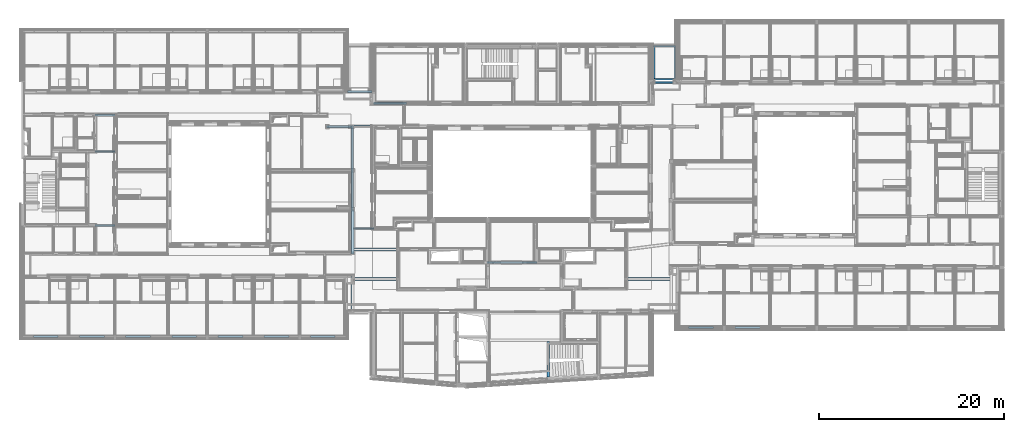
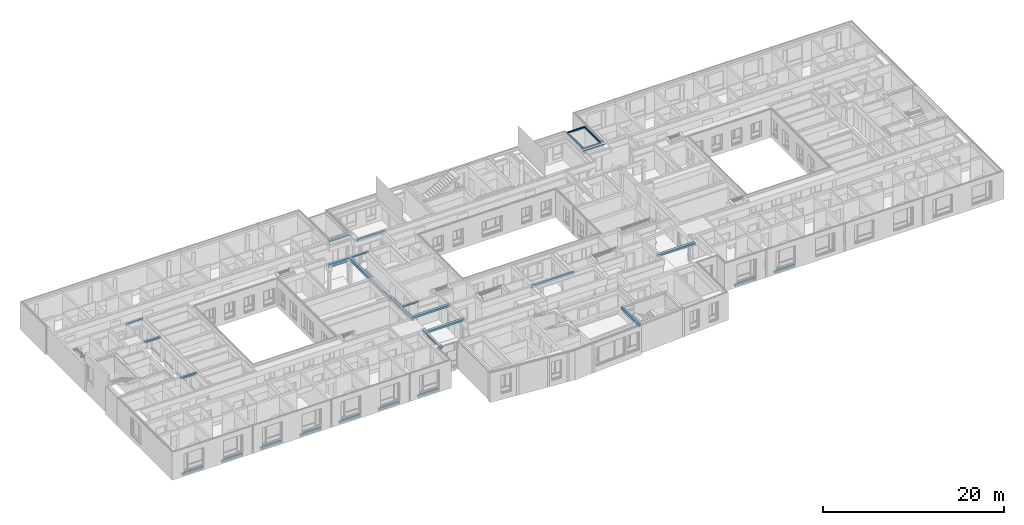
# One storey, part 6 of 222: 30 beams.
"""IFC4 building model written with IfcOpenShell, lengths in metres."""

from ifc_helpers import new_model, entity, si_unit, converted_unit, derived_unit, frame, frame_2d, origin, place, context, subcontext, project, spatial, polyline, rectangle, outline, extrude, faceted_brep, material, element, save


model = new_model("IFC4")

# Units and contexts
model_context = context("Model", 3, precision=1e-05, world=origin())
body_context = subcontext(model_context, "Body", "Model", "MODEL_VIEW")
ifc_project = project(units=[si_unit("LENGTHUNIT", "METRE"), si_unit("AREAUNIT", "SQUARE_METRE"), si_unit("VOLUMEUNIT", "CUBIC_METRE"), si_unit("MASSUNIT", "GRAM", prefix="KILO"), converted_unit("PLANEANGLEUNIT", "DEGREE", entity("IfcPlaneAngleMeasure", 0.0174532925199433), si_unit("PLANEANGLEUNIT", "RADIAN"), dimensions=[0, 0, 0, 0, 0, 0, 0]), derived_unit("THERMALTRANSMITTANCEUNIT", [(si_unit("POWERUNIT", "WATT"), 1), (si_unit("THERMODYNAMICTEMPERATUREUNIT", "KELVIN"), -1), (si_unit("LENGTHUNIT", "METRE"), -2)]), derived_unit("VOLUMETRICFLOWRATEUNIT", [(si_unit("LENGTHUNIT", "METRE"), 3), (converted_unit("TIMEUNIT", "hour", entity("IfcTimeMeasure", 3600.0), si_unit("TIMEUNIT", "SECOND"), dimensions=[0, 0, 1, 0, 0, 0, 0]), -1), (si_unit("LENGTHUNIT", "METRE"), -1)])], contexts=[model_context])

# Site, building, storey
site_placement = place(None, origin())
site = spatial("IfcSite", under=ifc_project, at=site_placement, Name="Psychiatrie Neubau Wunstorf", CompositionType="ELEMENT")
building_placement = place(site_placement, origin())
building = spatial("IfcBuilding", under=site, at=building_placement, Name="Neubau H2 Stationsgebäude", CompositionType="ELEMENT")
storey_placement = place(building_placement, frame((0.0, 0.0, 3.6)))
storey = spatial("IfcBuildingStorey", under=building, at=storey_placement, Name="H2 Ebene +1", CompositionType="ELEMENT", Elevation=3.6)

# Beams
ifc_material_1 = material(Name="BS Bekleidung")
beam_1_placement = place(storey_placement, frame((35.1750000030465, 24.114, 3.114)))
element("IfcBeam", 1, at=beam_1_placement, inside=storey, material=ifc_material_1, PredefinedType="NOTDEFINED", context=body_context, shape_type="Brep", body=[
    faceted_brep([(0.0, 0.282, 0.0), (0.0, 0.0, 0.0), (2.65, 0.0, 0.0), (2.65, 0.282, 0.0), (0.0, 0.246, 0.436), (0.0, 0.282, 0.436), (2.65, 0.282, 0.436), (2.65, 0.246, 0.436), (0.0, 0.246, 0.036), (0.0, 0.036, 0.036), (0.0, 0.036, 0.436), (0.0, 0.0, 0.436), (2.65, 0.0, 0.436), (2.65, 0.036, 0.436), (2.65, 0.036, 0.036), (2.65, 0.246, 0.036)], [[[0, 1, 2, 3]], [[4, 5, 6, 7]], [[8, 9, 10, 11, 1, 0, 5, 4]], [[2, 1, 11, 12]], [[7, 6, 3, 2, 12, 13, 14, 15]], [[0, 3, 6, 5]], [[13, 12, 11, 10]], [[14, 9, 8, 15]], [[13, 10, 9, 14]], [[15, 8, 4, 7]]], orient=[[False], [False], [False], [False], [False], [False], [False], [False], [False], [False]]),
])
ifc_material_2 = material(Name="BS Bekleidung")
beam_2_placement = place(storey_placement, frame((77.1500000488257, -1.39600345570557, 0.0)))
element("IfcBeam", 2, at=beam_2_placement, inside=storey, material=ifc_material_2, PredefinedType="NOTDEFINED", context=body_context, shape_type="Brep", body=[
    faceted_brep([(0.0, 0.232007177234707, 0.296), (2.7, 0.232, 0.296), (2.7, 0.0, 0.296), (0.0, 3.588617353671e-06, 0.296), (0.0, 0.196007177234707, 0.0), (2.7, 0.196, 0.0), (2.7, 0.232, 0.0), (0.0, 0.232007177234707, 0.0), (0.0, 0.196007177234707, 0.26), (0.0, 3.588617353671e-06, 0.0), (0.0, 0.0360035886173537, 0.0), (0.0, 0.0360035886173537, 0.26), (2.7, 0.0, 0.0), (2.7, 0.196, 0.26), (2.7, 0.036, 0.26), (2.7, 0.036, 0.0)], [[[0, 1, 2, 3]], [[4, 5, 6, 7]], [[8, 4, 7, 0, 3, 9, 10, 11]], [[2, 12, 9, 3]], [[5, 13, 14, 15, 12, 2, 1, 6]], [[0, 7, 6, 1]], [[15, 10, 9, 12]], [[14, 13, 8, 11]], [[15, 14, 11, 10]], [[13, 5, 4, 8]]], orient=[[False], [False], [False], [False], [False], [False], [False], [False], [False], [False]]),
])
ifc_material_3 = material(Name="BS Bekleidung")
beam_3_placement = place(storey_placement, frame((72.1500000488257, -1.39600345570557, 0.0)))
element("IfcBeam", 3, at=beam_3_placement, inside=storey, material=ifc_material_3, PredefinedType="NOTDEFINED", context=body_context, shape_type="Brep", body=[
    faceted_brep([(0.0, 0.232007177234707, 0.296), (2.7, 0.232, 0.296), (2.7, 0.0, 0.296), (0.0, 3.588617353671e-06, 0.296), (0.0, 0.196007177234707, 0.0), (2.7, 0.196, 0.0), (2.7, 0.232, 0.0), (0.0, 0.232007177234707, 0.0), (0.0, 0.196007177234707, 0.26), (0.0, 3.588617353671e-06, 0.0), (0.0, 0.0360035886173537, 0.0), (0.0, 0.0360035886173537, 0.26), (2.7, 0.0, 0.0), (2.7, 0.196, 0.26), (2.7, 0.036, 0.26), (2.7, 0.036, 0.0)], [[[0, 1, 2, 3]], [[4, 5, 6, 7]], [[8, 4, 7, 0, 3, 9, 10, 11]], [[2, 12, 9, 3]], [[5, 13, 14, 15, 12, 2, 1, 6]], [[0, 7, 6, 1]], [[15, 10, 9, 12]], [[14, 13, 8, 11]], [[15, 14, 11, 10]], [[13, 5, 4, 8]]], orient=[[False], [False], [False], [False], [False], [False], [False], [False], [False], [False]]),
])
ifc_material_4 = material(Name="BS Bekleidung")
beam_4_placement = place(storey_placement, frame((1.15000000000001, -2.39600345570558, 0.0)))
element("IfcBeam", 4, at=beam_4_placement, inside=storey, material=ifc_material_4, PredefinedType="NOTDEFINED", context=body_context, shape_type="Brep", body=[
    faceted_brep([(0.0, 0.232007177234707, 0.296), (2.69999999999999, 0.232, 0.296), (2.69999999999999, 0.0, 0.296), (0.0, 3.588617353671e-06, 0.296), (0.0, 0.196007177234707, 0.0), (2.69999999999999, 0.196, 0.0), (2.69999999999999, 0.232, 0.0), (0.0, 0.232007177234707, 0.0), (0.0, 0.196007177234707, 0.26), (0.0, 3.588617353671e-06, 0.0), (0.0, 0.0360035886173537, 0.0), (0.0, 0.0360035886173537, 0.26), (2.69999999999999, 0.0, 0.0), (2.69999999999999, 0.196, 0.26), (2.69999999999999, 0.036, 0.26), (2.69999999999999, 0.036, 0.0)], [[[0, 1, 2, 3]], [[4, 5, 6, 7]], [[8, 4, 7, 0, 3, 9, 10, 11]], [[2, 12, 9, 3]], [[5, 13, 14, 15, 12, 2, 1, 6]], [[0, 7, 6, 1]], [[15, 10, 9, 12]], [[14, 13, 8, 11]], [[15, 14, 11, 10]], [[13, 5, 4, 8]]], orient=[[False], [False], [False], [False], [False], [False], [False], [False], [False], [False]]),
])
ifc_material_5 = material(Name="BS Bekleidung")
beam_5_placement = place(storey_placement, frame((6.15000000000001, -2.39600345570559, 0.0)))
element("IfcBeam", 5, at=beam_5_placement, inside=storey, material=ifc_material_5, PredefinedType="NOTDEFINED", context=body_context, shape_type="Brep", body=[
    faceted_brep([(0.0, 0.232007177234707, 0.296), (2.69999999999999, 0.232, 0.296), (2.69999999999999, 0.0, 0.296), (0.0, 3.588617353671e-06, 0.296), (0.0, 0.196007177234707, 0.0), (2.69999999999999, 0.196, 0.0), (2.69999999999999, 0.232, 0.0), (0.0, 0.232007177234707, 0.0), (0.0, 0.196007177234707, 0.26), (0.0, 3.588617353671e-06, 0.0), (0.0, 0.0360035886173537, 0.0), (0.0, 0.0360035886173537, 0.26), (2.69999999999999, 0.0, 0.0), (2.69999999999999, 0.196, 0.26), (2.69999999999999, 0.036, 0.26), (2.69999999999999, 0.036, 0.0)], [[[0, 1, 2, 3]], [[4, 5, 6, 7]], [[8, 4, 7, 0, 3, 9, 10, 11]], [[2, 12, 9, 3]], [[5, 13, 14, 15, 12, 2, 1, 6]], [[0, 7, 6, 1]], [[15, 10, 9, 12]], [[14, 13, 8, 11]], [[15, 14, 11, 10]], [[13, 5, 4, 8]]], orient=[[False], [False], [False], [False], [False], [False], [False], [False], [False], [False]]),
])
ifc_material_6 = material(Name="BS Bekleidung")
beam_6_placement = place(storey_placement, frame((11.15, -2.39600345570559, 0.0)))
element("IfcBeam", 6, at=beam_6_placement, inside=storey, material=ifc_material_6, PredefinedType="NOTDEFINED", context=body_context, shape_type="Brep", body=[
    faceted_brep([(0.0, 0.232007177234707, 0.296), (2.69999999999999, 0.232, 0.296), (2.69999999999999, 0.0, 0.296), (0.0, 3.588617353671e-06, 0.296), (0.0, 0.196007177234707, 0.0), (2.69999999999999, 0.196, 0.0), (2.69999999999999, 0.232, 0.0), (0.0, 0.232007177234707, 0.0), (0.0, 0.196007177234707, 0.26), (0.0, 3.588617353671e-06, 0.0), (0.0, 0.0360035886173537, 0.0), (0.0, 0.0360035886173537, 0.26), (2.69999999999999, 0.0, 0.0), (2.69999999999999, 0.196, 0.26), (2.69999999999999, 0.036, 0.26), (2.69999999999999, 0.036, 0.0)], [[[0, 1, 2, 3]], [[4, 5, 6, 7]], [[8, 4, 7, 0, 3, 9, 10, 11]], [[2, 12, 9, 3]], [[5, 13, 14, 15, 12, 2, 1, 6]], [[0, 7, 6, 1]], [[15, 10, 9, 12]], [[14, 13, 8, 11]], [[15, 14, 11, 10]], [[13, 5, 4, 8]]], orient=[[False], [False], [False], [False], [False], [False], [False], [False], [False], [False]]),
])
ifc_material_7 = material(Name="BS Bekleidung")
beam_7_placement = place(storey_placement, frame((16.15, -2.39599999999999, 0.0)))
element("IfcBeam", 7, at=beam_7_placement, inside=storey, material=ifc_material_7, PredefinedType="NOTDEFINED", context=body_context, shape_type="Brep", body=[
    faceted_brep([(0.0, 0.232007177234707, 0.296), (2.69999999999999, 0.232, 0.296), (2.69999999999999, 0.0, 0.296), (0.0, 3.588617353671e-06, 0.296), (0.0, 0.196007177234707, 0.0), (2.69999999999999, 0.196, 0.0), (2.69999999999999, 0.232, 0.0), (0.0, 0.232007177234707, 0.0), (0.0, 0.196007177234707, 0.26), (0.0, 3.588617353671e-06, 0.0), (0.0, 0.0360035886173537, 0.0), (0.0, 0.0360035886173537, 0.26), (2.69999999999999, 0.0, 0.0), (2.69999999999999, 0.196, 0.26), (2.69999999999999, 0.036, 0.26), (2.69999999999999, 0.036, 0.0)], [[[0, 1, 2, 3]], [[4, 5, 6, 7]], [[8, 4, 7, 0, 3, 9, 10, 11]], [[2, 12, 9, 3]], [[5, 13, 14, 15, 12, 2, 1, 6]], [[0, 7, 6, 1]], [[15, 10, 9, 12]], [[14, 13, 8, 11]], [[15, 14, 11, 10]], [[13, 5, 4, 8]]], orient=[[False], [False], [False], [False], [False], [False], [False], [False], [False], [False]]),
])
ifc_material_8 = material(Name="BS Bekleidung")
beam_8_placement = place(storey_placement, frame((21.15, -2.39599999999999, 0.0)))
element("IfcBeam", 8, at=beam_8_placement, inside=storey, material=ifc_material_8, PredefinedType="NOTDEFINED", context=body_context, shape_type="Brep", body=[
    faceted_brep([(0.0, 0.232007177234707, 0.296), (2.69999999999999, 0.232, 0.296), (2.69999999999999, 0.0, 0.296), (0.0, 3.588617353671e-06, 0.296), (0.0, 0.196007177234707, 0.0), (2.69999999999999, 0.196, 0.0), (2.69999999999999, 0.232, 0.0), (0.0, 0.232007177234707, 0.0), (0.0, 0.196007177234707, 0.26), (0.0, 3.588617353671e-06, 0.0), (0.0, 0.0360035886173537, 0.0), (0.0, 0.0360035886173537, 0.26), (2.69999999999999, 0.0, 0.0), (2.69999999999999, 0.196, 0.26), (2.69999999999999, 0.036, 0.26), (2.69999999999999, 0.036, 0.0)], [[[0, 1, 2, 3]], [[4, 5, 6, 7]], [[8, 4, 7, 0, 3, 9, 10, 11]], [[2, 12, 9, 3]], [[5, 13, 14, 15, 12, 2, 1, 6]], [[0, 7, 6, 1]], [[15, 10, 9, 12]], [[14, 13, 8, 11]], [[15, 14, 11, 10]], [[13, 5, 4, 8]]], orient=[[False], [False], [False], [False], [False], [False], [False], [False], [False], [False]]),
])
ifc_material_9 = material(Name="BS Bekleidung")
beam_9_placement = place(storey_placement, frame((26.15, -2.39599999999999, 0.0)))
element("IfcBeam", 9, at=beam_9_placement, inside=storey, material=ifc_material_9, PredefinedType="NOTDEFINED", context=body_context, shape_type="Brep", body=[
    faceted_brep([(0.0, 0.232007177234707, 0.296), (2.69999999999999, 0.232, 0.296), (2.69999999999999, 0.0, 0.296), (0.0, 3.588617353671e-06, 0.296), (0.0, 0.196007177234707, 0.0), (2.69999999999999, 0.196, 0.0), (2.69999999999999, 0.232, 0.0), (0.0, 0.232007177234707, 0.0), (0.0, 0.196007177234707, 0.26), (0.0, 3.588617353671e-06, 0.0), (0.0, 0.0360035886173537, 0.0), (0.0, 0.0360035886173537, 0.26), (2.69999999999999, 0.0, 0.0), (2.69999999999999, 0.196, 0.26), (2.69999999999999, 0.036, 0.26), (2.69999999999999, 0.036, 0.0)], [[[0, 1, 2, 3]], [[4, 5, 6, 7]], [[8, 4, 7, 0, 3, 9, 10, 11]], [[2, 12, 9, 3]], [[5, 13, 14, 15, 12, 2, 1, 6]], [[0, 7, 6, 1]], [[15, 10, 9, 12]], [[14, 13, 8, 11]], [[15, 14, 11, 10]], [[13, 5, 4, 8]]], orient=[[False], [False], [False], [False], [False], [False], [False], [False], [False], [False]]),
])
ifc_material_10 = material(Name="BS Bekleidung")
beam_10_placement = place(storey_placement, frame((31.15, -2.39599999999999, 0.0)))
element("IfcBeam", 10, at=beam_10_placement, inside=storey, material=ifc_material_10, PredefinedType="NOTDEFINED", context=body_context, shape_type="Brep", body=[
    faceted_brep([(0.0, 0.232007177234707, 0.296), (2.69999999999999, 0.232, 0.296), (2.69999999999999, 0.0, 0.296), (0.0, 3.588617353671e-06, 0.296), (0.0, 0.196007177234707, 0.0), (2.69999999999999, 0.196, 0.0), (2.69999999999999, 0.232, 0.0), (0.0, 0.232007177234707, 0.0), (0.0, 0.196007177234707, 0.26), (0.0, 3.588617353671e-06, 0.0), (0.0, 0.0360035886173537, 0.0), (0.0, 0.0360035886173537, 0.26), (2.69999999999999, 0.0, 0.0), (2.69999999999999, 0.196, 0.26), (2.69999999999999, 0.036, 0.26), (2.69999999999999, 0.036, 0.0)], [[[0, 1, 2, 3]], [[4, 5, 6, 7]], [[8, 4, 7, 0, 3, 9, 10, 11]], [[2, 12, 9, 3]], [[5, 13, 14, 15, 12, 2, 1, 6]], [[0, 7, 6, 1]], [[15, 10, 9, 12]], [[14, 13, 8, 11]], [[15, 14, 11, 10]], [[13, 5, 4, 8]]], orient=[[False], [False], [False], [False], [False], [False], [False], [False], [False], [False]]),
])
ifc_material_11 = material(Name="H")
beam_11_placement = place(storey_placement, frame((68.1750000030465, 25.15, 3.15)))
element("IfcBeam", 11, at=beam_11_placement, inside=storey, material=ifc_material_11, PredefinedType="NOTDEFINED", context=body_context, shape_type="SweptSolid", body=[
    extrude(rectangle(XDim=0.16, YDim=0.4, at=frame_2d((0.08, 0.2), x_axis=(1.0, 0.0))), frame((0.0, 0.0, 0.0), z_axis=(1.0, 0.0, 0.0), x_axis=(0.0, 1.0, 0.0)), (0.0, 0.0, 1.0), 2.65),
])
ifc_material_12 = material(Name="BS Bekleidung")
beam_12_placement = place(storey_placement, frame((7.84350410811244, 17.6540132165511, 3.314)))
element("IfcBeam", 12, at=beam_12_placement, inside=storey, material=ifc_material_12, PredefinedType="NOTDEFINED", context=body_context, shape_type="Brep", body=[
    faceted_brep([(0.0, 0.232, 0.0), (0.0, 0.0, 0.0), (2.15, 0.0, 0.0), (2.15, 0.232, 0.0), (0.0, 0.196, 0.236), (0.0, 0.232, 0.236), (2.15, 0.232, 0.236), (2.15, 0.196, 0.236), (0.0, 0.196, 0.036), (0.0, 0.036, 0.036), (0.0, 0.036, 0.236), (0.0, 0.0, 0.236), (2.15, 0.0, 0.236), (2.15, 0.036, 0.236), (2.15, 0.036, 0.036), (2.15, 0.196, 0.036)], [[[0, 1, 2, 3]], [[4, 5, 6, 7]], [[8, 9, 10, 11, 1, 0, 5, 4]], [[2, 1, 11, 12]], [[7, 6, 3, 2, 12, 13, 14, 15]], [[0, 3, 6, 5]], [[13, 12, 11, 10]], [[14, 9, 8, 15]], [[13, 10, 9, 14]], [[15, 8, 4, 7]]], orient=[[False], [False], [False], [False], [False], [False], [False], [False], [False], [False]]),
])
ifc_material_13 = material(Name="BS Bekleidung")
beam_13_placement = place(storey_placement, frame((35.589, 6.64199999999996, 3.284)))
element("IfcBeam", 13, at=beam_13_placement, inside=storey, material=ifc_material_13, PredefinedType="NOTDEFINED", context=body_context, shape_type="Brep", body=[
    faceted_brep([(0.0, 0.0, 0.0), (0.312000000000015, 0.0, 0.0), (0.312000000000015, 4.81155529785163, 0.0), (0.0, 4.81155529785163, 0.0), (0.036, 0.0, 0.266), (0.0, 0.0, 0.266), (0.0, 4.81155529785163, 0.266), (0.036, 4.81155529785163, 0.266), (0.036, 0.0, 0.036), (0.276000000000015, 0.0, 0.036), (0.276000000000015, 0.0, 0.266), (0.312000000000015, 0.0, 0.266), (0.312000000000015, 4.81155529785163, 0.266), (0.276000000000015, 4.81155529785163, 0.266), (0.276000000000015, 4.81155529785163, 0.036), (0.036, 4.81155529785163, 0.036)], [[[0, 1, 2, 3]], [[4, 5, 6, 7]], [[8, 9, 10, 11, 1, 0, 5, 4]], [[2, 1, 11, 12]], [[7, 6, 3, 2, 12, 13, 14, 15]], [[0, 3, 6, 5]], [[13, 12, 11, 10]], [[14, 9, 8, 15]], [[13, 10, 9, 14]], [[15, 8, 4, 7]]], orient=[[False], [False], [False], [False], [False], [False], [False], [False], [False], [False]]),
])
ifc_material_14 = material(Name="BS Bekleidung")
beam_14_placement = place(storey_placement, frame((35.865, 9.32399798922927, 3.381)))
element("IfcBeam", 14, at=beam_14_placement, inside=storey, material=ifc_material_14, PredefinedType="NOTDEFINED", context=body_context, shape_type="Brep", body=[
    faceted_brep([(0.0, 0.212, 0.0), (0.0, 0.0, 0.0), (2.17500305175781, 0.0, 0.0), (2.17500305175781, 0.212, 0.0), (0.0, 0.176, 0.169), (0.0, 0.212, 0.169), (2.17500305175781, 0.212, 0.169), (2.17500305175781, 0.176, 0.169), (0.0, 0.176, 0.036), (0.0, 0.036, 0.036), (0.0, 0.036, 0.169), (0.0, 0.0, 0.169), (2.17500305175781, 0.0, 0.169), (2.17500305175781, 0.036, 0.169), (2.17500305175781, 0.036, 0.036), (2.17500305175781, 0.176, 0.036)], [[[0, 1, 2, 3]], [[4, 5, 6, 7]], [[8, 9, 10, 11, 1, 0, 5, 4]], [[2, 1, 11, 12]], [[7, 6, 3, 2, 12, 13, 14, 15]], [[0, 3, 6, 5]], [[13, 12, 11, 10]], [[14, 9, 8, 15]], [[13, 10, 9, 14]], [[15, 8, 4, 7]]], orient=[[False], [False], [False], [False], [False], [False], [False], [False], [False], [False]]),
])
ifc_material_15 = material(Name="BS Bekleidung")
beam_15_placement = place(storey_placement, frame((35.865, 6.99050243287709, 3.284)))
element("IfcBeam", 15, at=beam_15_placement, inside=storey, material=ifc_material_15, PredefinedType="NOTDEFINED", context=body_context, shape_type="Brep", body=[
    faceted_brep([(0.0, 0.312000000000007, 0.0), (0.0, 0.0, 0.0), (4.86999755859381, 0.0, 0.0), (4.86999755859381, 0.312000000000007, 0.0), (0.0, 0.276000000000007, 0.266), (0.0, 0.312000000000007, 0.266), (4.86999755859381, 0.312000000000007, 0.266), (4.86999755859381, 0.276000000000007, 0.266), (0.0, 0.276000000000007, 0.036), (0.0, 0.036, 0.036), (0.0, 0.036, 0.266), (0.0, 0.0, 0.266), (4.86999755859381, 0.0, 0.266), (4.86999755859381, 0.036, 0.266), (4.86999755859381, 0.036, 0.036), (4.86999755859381, 0.276000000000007, 0.036)], [[[0, 1, 2, 3]], [[4, 5, 6, 7]], [[8, 9, 10, 11, 1, 0, 5, 4]], [[2, 1, 11, 12]], [[7, 6, 3, 2, 12, 13, 14, 15]], [[0, 3, 6, 5]], [[13, 12, 11, 10]], [[14, 9, 8, 15]], [[13, 10, 9, 14]], [[15, 8, 4, 7]]], orient=[[False], [False], [False], [False], [False], [False], [False], [False], [False], [False]]),
])
ifc_material_16 = material(Name="BS Bekleidung")
beam_16_placement = place(storey_placement, frame((7.84350410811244, 21.604, 3.314)))
element("IfcBeam", 16, at=beam_16_placement, inside=storey, material=ifc_material_16, PredefinedType="NOTDEFINED", context=body_context, shape_type="Brep", body=[
    faceted_brep([(0.0, 0.232, 0.0), (0.0, 0.0, 0.0), (2.15, 0.0, 0.0), (2.15, 0.232, 0.0), (0.0, 0.196, 0.236), (0.0, 0.232, 0.236), (2.15, 0.232, 0.236), (2.15, 0.196, 0.236), (0.0, 0.196, 0.036), (0.0, 0.036, 0.036), (0.0, 0.036, 0.236), (0.0, 0.0, 0.236), (2.15, 0.0, 0.236), (2.15, 0.036, 0.236), (2.15, 0.036, 0.036), (2.15, 0.196, 0.036)], [[[0, 1, 2, 3]], [[4, 5, 6, 7]], [[8, 9, 10, 11, 1, 0, 5, 4]], [[2, 1, 11, 12]], [[7, 6, 3, 2, 12, 13, 14, 15]], [[0, 3, 6, 5]], [[13, 12, 11, 10]], [[14, 9, 8, 15]], [[13, 10, 9, 14]], [[15, 8, 4, 7]]], orient=[[False], [False], [False], [False], [False], [False], [False], [False], [False], [False]]),
])
ifc_material_17 = material(Name="BS Bekleidung")
beam_17_placement = place(storey_placement, frame((7.84350410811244, 9.65000306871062, 3.314)))
element("IfcBeam", 17, at=beam_17_placement, inside=storey, material=ifc_material_17, PredefinedType="NOTDEFINED", context=body_context, shape_type="Brep", body=[
    faceted_brep([(0.0, 0.232, 0.0), (0.0, 0.0, 0.0), (2.15, 0.0, 0.0), (2.15, 0.232, 0.0), (0.0, 0.196, 0.236), (0.0, 0.232, 0.236), (2.15, 0.232, 0.236), (2.15, 0.196, 0.236), (0.0, 0.196, 0.036), (0.0, 0.036, 0.036), (0.0, 0.036, 0.236), (0.0, 0.0, 0.236), (2.15, 0.0, 0.236), (2.15, 0.036, 0.236), (2.15, 0.036, 0.036), (2.15, 0.196, 0.036)], [[[0, 1, 2, 3]], [[4, 5, 6, 7]], [[8, 9, 10, 11, 1, 0, 5, 4]], [[2, 1, 11, 12]], [[7, 6, 3, 2, 12, 13, 14, 15]], [[0, 3, 6, 5]], [[13, 12, 11, 10]], [[14, 9, 8, 15]], [[13, 10, 9, 14]], [[15, 8, 4, 7]]], orient=[[False], [False], [False], [False], [False], [False], [False], [False], [False], [False]]),
])
ifc_material_18 = material(Name="BS Bekleidung")
beam_18_placement = place(storey_placement, frame((50.2855000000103, 5.61749969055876, 3.195)))
element("IfcBeam", 18, at=beam_18_placement, inside=storey, material=ifc_material_18, PredefinedType="NOTDEFINED", context=body_context, shape_type="Brep", body=[
    faceted_brep([(0.0, 0.232000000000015, 0.0), (0.0, 0.0, 0.0), (5.44700000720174, 0.0, 0.0), (5.44699980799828, 0.232, 0.0), (0.0, 0.196, 0.355), (0.0, 0.232000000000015, 0.355), (5.44699960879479, 0.232, 0.355), (5.44699960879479, 0.196, 0.355), (0.0, 0.196, 0.036), (0.0, 0.036, 0.036), (0.0, 0.036, 0.355), (0.0, 0.0, 0.355), (5.44699980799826, 0.0, 0.355), (5.44699980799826, 0.036, 0.355), (5.44700000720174, 0.036, 0.036), (5.44699980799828, 0.196, 0.036)], [[[0, 1, 2, 3]], [[4, 5, 6, 7]], [[8, 9, 10, 11, 1, 0, 5, 4]], [[2, 1, 11, 12]], [[7, 6, 3, 2, 12, 13, 14, 15]], [[0, 3, 6, 5]], [[13, 12, 11, 10]], [[14, 9, 8, 15]], [[13, 10, 9, 14]], [[15, 8, 4, 7]]], orient=[[False], [False], [False], [False], [False], [False], [False], [False], [False], [False]]),
])
ifc_material_19 = material(Name="BS Bekleidung")
beam_19_placement = place(storey_placement, frame((35.8649950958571, 3.80399969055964, 3.284)))
element("IfcBeam", 19, at=beam_19_placement, inside=storey, material=ifc_material_19, PredefinedType="NOTDEFINED", context=body_context, shape_type="Brep", body=[
    faceted_brep([(0.0, 0.312000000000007, 0.0), (0.0, 0.0, 0.0), (4.87000246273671, 0.0, 0.0), (4.87000246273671, 0.312000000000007, 0.0), (0.0, 0.276000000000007, 0.266), (0.0, 0.312000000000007, 0.266), (4.87000246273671, 0.312000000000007, 0.266), (4.87000246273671, 0.276000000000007, 0.266), (0.0, 0.276000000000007, 0.036), (0.0, 0.036, 0.036), (0.0, 0.036, 0.266), (0.0, 0.0, 0.266), (4.87000246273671, 0.0, 0.266), (4.87000246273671, 0.036, 0.266), (4.87000246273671, 0.036, 0.036), (4.87000246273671, 0.276000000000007, 0.036)], [[[0, 1, 2, 3]], [[4, 5, 6, 7]], [[8, 9, 10, 11, 1, 0, 5, 4]], [[2, 1, 11, 12]], [[7, 6, 3, 2, 12, 13, 14, 15]], [[0, 3, 6, 5]], [[13, 12, 11, 10]], [[14, 9, 8, 15]], [[13, 10, 9, 14]], [[15, 8, 4, 7]]], orient=[[False], [False], [False], [False], [False], [False], [False], [False], [False], [False]]),
])
ifc_material_20 = material(Name="BS Bekleidung")
beam_20_placement = place(storey_placement, frame((65.2650024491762, 3.80399084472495, 3.284)))
element("IfcBeam", 20, at=beam_20_placement, inside=storey, material=ifc_material_20, PredefinedType="NOTDEFINED", context=body_context, shape_type="Brep", body=[
    faceted_brep([(0.0, 0.312006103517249, 0.0), (0.0, 6.10351724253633e-06, 0.0), (4.86999287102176, 0.0, 0.0), (4.86999287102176, 0.312000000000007, 0.0), (0.0, 0.27600610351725, 0.266), (0.0, 0.312006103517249, 0.266), (4.86999287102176, 0.312000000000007, 0.266), (4.86999287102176, 0.276000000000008, 0.266), (0.0, 0.27600610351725, 0.036), (0.0, 0.0360061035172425, 0.036), (0.0, 0.0360061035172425, 0.266), (0.0, 6.10351724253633e-06, 0.266), (4.86999287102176, 0.0, 0.266), (4.86999287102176, 0.0360000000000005, 0.266), (4.86999287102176, 0.0360000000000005, 0.036), (4.86999287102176, 0.276000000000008, 0.036)], [[[0, 1, 2, 3]], [[4, 5, 6, 7]], [[8, 9, 10, 11, 1, 0, 5, 4]], [[2, 1, 11, 12]], [[7, 6, 3, 2, 12, 13, 14, 15]], [[0, 3, 6, 5]], [[13, 12, 11, 10]], [[14, 9, 8, 15]], [[13, 10, 9, 14]], [[15, 8, 4, 7]]], orient=[[False], [False], [False], [False], [False], [False], [False], [False], [False], [False]]),
])
ifc_material_21 = material(Name="BS Bekleidung")
beam_21_placement = place(storey_placement, frame((38.005, 22.8829990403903, 3.214)))
element("IfcBeam", 21, at=beam_21_placement, inside=storey, material=ifc_material_21, PredefinedType="NOTDEFINED", context=body_context, shape_type="Brep", body=[
    faceted_brep([(0.0, 0.25200366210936, 0.0), (0.0, 3.66210936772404e-06, 0.0), (3.5905016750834, 0.0, 0.0), (3.5905016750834, 0.251999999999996, 0.0), (0.0, 0.21600366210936, 0.336), (0.0, 0.25200366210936, 0.336), (3.5905016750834, 0.251999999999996, 0.336), (3.5905016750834, 0.215999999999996, 0.336), (0.0, 0.21600366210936, 0.036), (0.0, 0.0360036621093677, 0.036), (0.0, 0.0360036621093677, 0.336), (0.0, 3.66210936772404e-06, 0.336), (3.5905016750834, 0.0, 0.336), (3.5905016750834, 0.0360000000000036, 0.336), (3.5905016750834, 0.0360000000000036, 0.036), (3.5905016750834, 0.215999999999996, 0.036)], [[[0, 1, 2, 3]], [[4, 5, 6, 7]], [[8, 9, 10, 11, 1, 0, 5, 4]], [[2, 1, 11, 12]], [[7, 6, 3, 2, 12, 13, 14, 15]], [[0, 3, 6, 5]], [[13, 12, 11, 10]], [[14, 9, 8, 15]], [[13, 10, 9, 14]], [[15, 8, 4, 7]]], orient=[[False], [False], [False], [False], [False], [False], [False], [False], [False], [False]]),
])
ifc_material_22 = material(Name="BS Bekleidung")
beam_22_placement = place(storey_placement, frame((35.564, 11.4535552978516, 3.114)))
element("IfcBeam", 22, at=beam_22_placement, inside=storey, material=ifc_material_22, PredefinedType="NOTDEFINED", context=body_context, shape_type="Brep", body=[
    faceted_brep([(0.0, 0.0, 0.0), (0.271999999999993, 0.0, 0.0), (0.271999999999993, 9.1214447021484, 0.0), (0.0, 9.1214447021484, 0.0), (0.036, 0.0, 0.436), (0.0, 0.0, 0.436), (0.0, 9.1214447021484, 0.436), (0.036, 9.1214447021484, 0.436), (0.036, 0.0, 0.036), (0.235999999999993, 0.0, 0.036), (0.235999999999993, 0.0, 0.436), (0.271999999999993, 0.0, 0.436), (0.271999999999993, 9.1214447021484, 0.436), (0.235999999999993, 9.1214447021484, 0.436), (0.235999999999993, 9.1214447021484, 0.036), (0.036, 9.1214447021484, 0.036)], [[[0, 1, 2, 3]], [[4, 5, 6, 7]], [[8, 9, 10, 11, 1, 0, 5, 4]], [[2, 1, 11, 12]], [[7, 6, 3, 2, 12, 13, 14, 15]], [[0, 3, 6, 5]], [[13, 12, 11, 10]], [[14, 9, 8, 15]], [[13, 10, 9, 14]], [[15, 8, 4, 7]]], orient=[[False], [False], [False], [False], [False], [False], [False], [False], [False], [False]]),
])
ifc_material_23 = material(Name="BS Bekleidung")
beam_23_placement = place(storey_placement, frame((35.811, 20.3800022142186, 3.381)))
element("IfcBeam", 23, at=beam_23_placement, inside=storey, material=ifc_material_23, PredefinedType="NOTDEFINED", context=body_context, shape_type="Brep", body=[
    faceted_brep([(0.0, 0.212, 0.0), (0.0, 0.0, 0.0), (2.214, 0.0, 0.0), (2.214, 0.212, 0.0), (0.0, 0.176, 0.169), (0.0, 0.212, 0.169), (2.214, 0.212, 0.169), (2.214, 0.176, 0.169), (0.0, 0.176, 0.036), (0.0, 0.036, 0.036), (0.0, 0.036, 0.169), (0.0, 0.0, 0.169), (2.214, 0.0, 0.169), (2.214, 0.036, 0.169), (2.214, 0.036, 0.036), (2.214, 0.176, 0.036)], [[[0, 1, 2, 3]], [[4, 5, 6, 7]], [[8, 9, 10, 11, 1, 0, 5, 4]], [[2, 1, 11, 12]], [[7, 6, 3, 2, 12, 13, 14, 15]], [[0, 3, 6, 5]], [[13, 12, 11, 10]], [[14, 9, 8, 15]], [[13, 10, 9, 14]], [[15, 8, 4, 7]]], orient=[[False], [False], [False], [False], [False], [False], [False], [False], [False], [False]]),
])
ifc_material_24 = material(Name="BS Bekleidung")
beam_24_placement = place(storey_placement, frame((32.8829956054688, 20.3199973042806, 3.114)))
element("IfcBeam", 24, at=beam_24_placement, inside=storey, material=ifc_material_24, PredefinedType="NOTDEFINED", context=body_context, shape_type="Brep", body=[
    faceted_brep([(0.0, 0.272, 0.0), (0.0, 0.0, 0.0), (2.68100439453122, 0.0, 0.0), (2.68100439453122, 0.272, 0.0), (0.0, 0.236, 0.436), (0.0, 0.272, 0.436), (2.68100439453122, 0.272, 0.436), (2.68100439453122, 0.236, 0.436), (0.0, 0.236, 0.036), (0.0, 0.036, 0.036), (0.0, 0.036, 0.436), (0.0, 0.0, 0.436), (2.68100439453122, 0.0, 0.436), (2.68100439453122, 0.036, 0.436), (2.68100439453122, 0.036, 0.036), (2.68100439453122, 0.236, 0.036)], [[[0, 1, 2, 3]], [[4, 5, 6, 7]], [[8, 9, 10, 11, 1, 0, 5, 4]], [[2, 1, 11, 12]], [[7, 6, 3, 2, 12, 13, 14, 15]], [[0, 3, 6, 5]], [[13, 12, 11, 10]], [[14, 9, 8, 15]], [[13, 10, 9, 14]], [[15, 8, 4, 7]]], orient=[[False], [False], [False], [False], [False], [False], [False], [False], [False], [False]]),
])
ifc_material_25 = material(Name="BS Bekleidung")
beam_25_placement = place(storey_placement, frame((35.5889950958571, 0.3399963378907, 3.284)))
element("IfcBeam", 25, at=beam_25_placement, inside=storey, material=ifc_material_25, PredefinedType="NOTDEFINED", context=body_context, shape_type="Brep", body=[
    faceted_brep([(0.0, 0.0, 0.0), (0.312000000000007, 0.0, 0.0), (0.312000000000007, 3.95500366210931, 0.0), (0.0, 3.95500366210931, 0.0), (0.036, 0.0, 0.266), (0.0, 0.0, 0.266), (0.0, 3.95500366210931, 0.266), (0.036, 3.95500366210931, 0.266), (0.036, 0.0, 0.036), (0.276000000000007, 0.0, 0.036), (0.276000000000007, 0.0, 0.266), (0.312000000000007, 0.0, 0.266), (0.312000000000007, 3.95500366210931, 0.266), (0.276000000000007, 3.95500366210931, 0.266), (0.276000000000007, 3.95500366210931, 0.036), (0.036, 3.95500366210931, 0.036)], [[[0, 1, 2, 3]], [[4, 5, 6, 7]], [[8, 9, 10, 11, 1, 0, 5, 4]], [[2, 1, 11, 12]], [[7, 6, 3, 2, 12, 13, 14, 15]], [[0, 3, 6, 5]], [[13, 12, 11, 10]], [[14, 9, 8, 15]], [[13, 10, 9, 14]], [[15, 8, 4, 7]]], orient=[[False], [False], [False], [False], [False], [False], [False], [False], [False], [False]]),
])
ifc_material_26 = material(Name="STB")
beam_26_placement = place(storey_placement, frame((56.7933838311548, -6.85012758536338, 3.2)))
element("IfcBeam", 26, at=beam_26_placement, inside=storey, material=ifc_material_26, PredefinedType="NOTDEFINED", context=body_context, shape_type="Brep", body=[
    faceted_brep([(0.0182587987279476, 0.170520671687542, 0.0), (0.029080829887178, 0.00186752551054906, 0.0), (0.029080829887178, 0.00186752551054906, 0.35), (0.0182587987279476, 0.170520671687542, 0.35), (0.0, 0.0, 0.0), (0.0, 0.0, 0.35), (0.0, 4.04013948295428, 0.0), (0.0, 4.04013948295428, 0.35), (0.25, 4.04013948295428, 0.0), (0.25, 4.04013948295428, 0.35), (0.25, 0.185402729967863, 0.0), (0.25, 0.185402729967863, 0.35)], [[[0, 1, 2, 3]], [[1, 4, 5, 2]], [[4, 6, 7, 5]], [[6, 8, 9, 7]], [[8, 10, 11, 9]], [[10, 0, 3, 11]], [[11, 3, 2, 5, 7, 9]], [[0, 10, 8, 6, 4, 1]]], orient=[[False], [False], [False], [False], [False], [False], [False], [False]]),
])
ifc_material_27 = material(Name="SB-TRAEGER")
beam_27_placement = place(storey_placement, frame((68.3173957, 29.1036607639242, 3.47), z_axis=(0.0, 0.0, 1.0), x_axis=(0.0, -1.0, 0.0)))
element("IfcBeam", 27, at=beam_27_placement, inside=storey, material=ifc_material_27, Name="HEA160", PredefinedType="NOTDEFINED", context=body_context, shape_type="SweptSolid", body=[
    extrude(outline(polyline([(0.152, 0.0), (0.152, 0.16), (0.143, 0.16), (0.143, 0.083), (0.00899999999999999, 0.083), (0.00899999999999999, 0.16), (0.0, 0.16), (0.0, 0.0), (0.00899999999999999, 0.0), (0.00899999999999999, 0.077), (0.143, 0.077), (0.143, 0.0), (0.152, 0.0)])), frame((0.0, 0.16, 0.0), z_axis=(1.0, 0.0, 0.0), x_axis=(0.0, 0.0, 1.0)), (0.0, 0.0, 1.0), 3.40046040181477),
])
ifc_material_28 = material(Name="SB-TRAEGER")
beam_28_placement = place(storey_placement, frame((68.3173957, 25.5432003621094, 3.47)))
element("IfcBeam", 28, at=beam_28_placement, inside=storey, material=ifc_material_28, Name="HEA160", PredefinedType="NOTDEFINED", context=body_context, shape_type="SweptSolid", body=[
    extrude(outline(polyline([(0.152, 0.0), (0.152, 0.16), (0.143, 0.16), (0.143, 0.083), (0.00899999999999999, 0.083), (0.00899999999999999, 0.16), (0.0, 0.16), (0.0, 0.0), (0.00899999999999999, 0.0), (0.00899999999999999, 0.077), (0.143, 0.077), (0.143, 0.0), (0.152, 0.0)])), frame((0.0, 0.16, 0.0), z_axis=(1.0, 0.0, 0.0), x_axis=(0.0, 0.0, 1.0)), (0.0, 0.0, 1.0), 2.38301075),
])
ifc_material_29 = material(Name="SB-TRAEGER")
beam_29_placement = place(storey_placement, frame((70.70040645, 25.7032003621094, 3.47), z_axis=(0.0, 0.0, 1.0), x_axis=(0.0, 1.0, 0.0)))
element("IfcBeam", 29, at=beam_29_placement, inside=storey, material=ifc_material_29, Name="HEA160", PredefinedType="NOTDEFINED", context=body_context, shape_type="SweptSolid", body=[
    extrude(outline(polyline([(0.152, 0.0), (0.152, 0.16), (0.143, 0.16), (0.143, 0.083), (0.00899999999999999, 0.083), (0.00899999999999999, 0.16), (0.0, 0.16), (0.0, 0.0), (0.00899999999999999, 0.0), (0.00899999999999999, 0.077), (0.143, 0.077), (0.143, 0.0), (0.152, 0.0)])), frame((0.0, 0.16, 0.0), z_axis=(1.0, 0.0, 0.0), x_axis=(0.0, 0.0, 1.0)), (0.0, 0.0, 1.0), 3.40046040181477),
])
ifc_material_30 = material(Name="SB-TRAEGER")
beam_30_placement = place(storey_placement, frame((70.70040645, 29.2636607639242, 3.47), z_axis=(0.0, 0.0, 1.0), x_axis=(-1.0, 0.0, 0.0)))
element("IfcBeam", 30, at=beam_30_placement, inside=storey, material=ifc_material_30, Name="HEA160", PredefinedType="NOTDEFINED", context=body_context, shape_type="SweptSolid", body=[
    extrude(outline(polyline([(0.152, 0.0), (0.152, 0.16), (0.143, 0.16), (0.143, 0.083), (0.00899999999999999, 0.083), (0.00899999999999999, 0.16), (0.0, 0.16), (0.0, 0.0), (0.00899999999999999, 0.0), (0.00899999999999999, 0.077), (0.143, 0.077), (0.143, 0.0), (0.152, 0.0)])), frame((0.0, 0.16, 0.0), z_axis=(1.0, 0.0, 0.0), x_axis=(0.0, 0.0, 1.0)), (0.0, 0.0, 1.0), 2.38301075),
])

save(model, "model.ifc")
